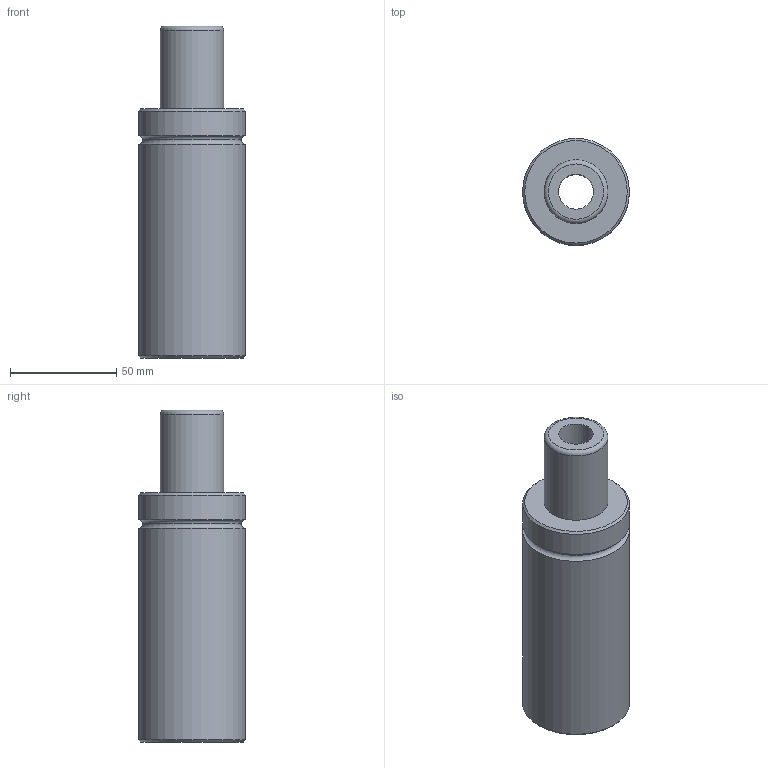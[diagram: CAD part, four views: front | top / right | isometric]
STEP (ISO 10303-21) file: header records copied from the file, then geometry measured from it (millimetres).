
FILE_DESCRIPTION(('FreeCAD Model'),'2;1');
FILE_NAME('Open CASCADE Shape Model','2024-11-14T08:26:56',('Author'),( ''),'Open CASCADE STEP processor 7.6','FreeCAD','Unknown');
FILE_SCHEMA(('AUTOMOTIVE_DESIGN { 1 0 10303 214 1 1 1 1 }'));
Length unit declared in the file: millimetre
Products named in the file (5): Unnamed; Part001; Fillet; Part007; Cut002
Assembly tree (4 placements, depth 3):
  Unnamed
    Part001
      Fillet
    Part007
      Cut002
Bounding box: 50.2 x 50.2 x 156 mm (x, y, z)
Volume: 224144.7 mm3; surface area: 35297.4 mm2
Topology: 2 solids, 2 shells, 20 faces, 33 edges, 20 vertices
Faces by surface type: cylinder 8, plane 7, torus 3, cone 2
Full cylindrical faces by diameter (mm): 6 x3, 16.4 x2, 30 x1, 50.2 x2
Entity records: 582 total; most frequent: DIRECTION 106, CARTESIAN_POINT 78, ORIENTED_EDGE 66, AXIS2_PLACEMENT_3D 48, EDGE_CURVE 33, FACE_BOUND 27, EDGE_LOOP 27, CIRCLE 23
